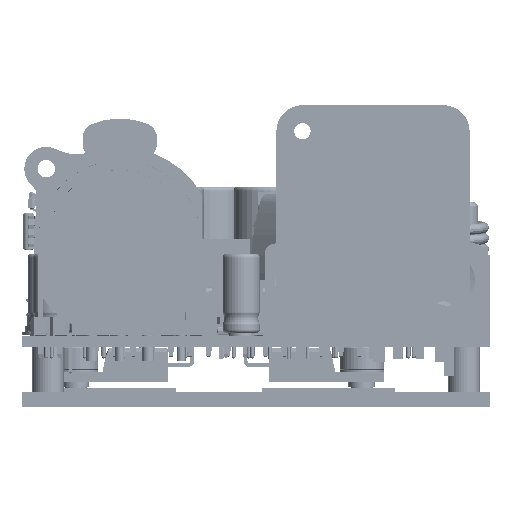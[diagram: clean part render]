
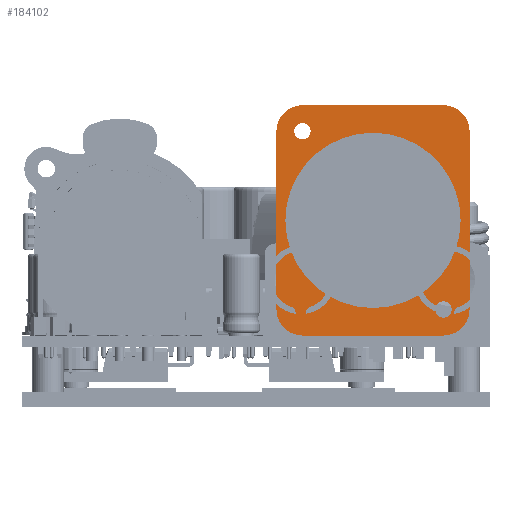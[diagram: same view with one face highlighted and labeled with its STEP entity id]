
A CAD part, left-side view. The second image highlights one B-rep face of the part: STEP entity #184102.
In plain terms, the highlighted planar face has unit normal (-1, 0, 0) as drawn and (0, 0, 1) by its records, which use the part's own axes.
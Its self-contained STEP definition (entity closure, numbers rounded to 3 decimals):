
#69158=CIRCLE('',#194928,1.1);
#69160=CIRCLE('',#194931,1.1);
#69172=CIRCLE('',#194948,11.798);
#69187=CIRCLE('',#194972,11.798);
#69188=CIRCLE('',#194974,1.1);
#69189=CIRCLE('',#194975,1.1);
#69190=CIRCLE('',#194976,3.5);
#69191=CIRCLE('',#194977,3.5);
#69192=CIRCLE('',#194978,3.5);
#69193=CIRCLE('',#194979,3.5);
#81185=VERTEX_POINT('',#295383);
#81186=VERTEX_POINT('',#295385);
#81189=VERTEX_POINT('',#295392);
#81190=VERTEX_POINT('',#295394);
#81213=VERTEX_POINT('',#295445);
#81214=VERTEX_POINT('',#295447);
#81364=VERTEX_POINT('',#296092);
#81365=VERTEX_POINT('',#296093);
#81366=VERTEX_POINT('',#296095);
#81367=VERTEX_POINT('',#296097);
#81368=VERTEX_POINT('',#296099);
#81369=VERTEX_POINT('',#296101);
#81370=VERTEX_POINT('',#296103);
#81371=VERTEX_POINT('',#296105);
#93871=VECTOR('',#223603,1.);
#93872=VECTOR('',#223606,1.);
#93873=VECTOR('',#223609,1.);
#93874=VECTOR('',#223612,1.);
#106587=LINE('',#296094,#93871);
#106588=LINE('',#296098,#93872);
#106589=LINE('',#296102,#93873);
#106590=LINE('',#296106,#93874);
#123951=EDGE_CURVE('',#81185,#81186,#69158,.T.);
#123955=EDGE_CURVE('',#81189,#81190,#69160,.T.);
#123979=EDGE_CURVE('',#81213,#81214,#69172,.T.);
#124141=EDGE_CURVE('',#81214,#81213,#69187,.T.);
#124142=EDGE_CURVE('',#81186,#81185,#69188,.T.);
#124143=EDGE_CURVE('',#81190,#81189,#69189,.T.);
#124144=EDGE_CURVE('',#81364,#81365,#69190,.T.);
#124145=EDGE_CURVE('',#81365,#81366,#106587,.T.);
#124146=EDGE_CURVE('',#81366,#81367,#69191,.T.);
#124147=EDGE_CURVE('',#81367,#81368,#106588,.T.);
#124148=EDGE_CURVE('',#81368,#81369,#69192,.T.);
#124149=EDGE_CURVE('',#81369,#81370,#106589,.T.);
#124150=EDGE_CURVE('',#81370,#81371,#69193,.T.);
#124151=EDGE_CURVE('',#81371,#81364,#106590,.T.);
#157599=ORIENTED_EDGE('',*,*,#124142,.F.);
#157600=ORIENTED_EDGE('',*,*,#123951,.F.);
#157601=ORIENTED_EDGE('',*,*,#124143,.F.);
#157602=ORIENTED_EDGE('',*,*,#123955,.F.);
#157603=ORIENTED_EDGE('',*,*,#124144,.T.);
#157604=ORIENTED_EDGE('',*,*,#124145,.T.);
#157605=ORIENTED_EDGE('',*,*,#124146,.T.);
#157606=ORIENTED_EDGE('',*,*,#124147,.T.);
#157607=ORIENTED_EDGE('',*,*,#124148,.T.);
#157608=ORIENTED_EDGE('',*,*,#124149,.T.);
#157609=ORIENTED_EDGE('',*,*,#124150,.T.);
#157610=ORIENTED_EDGE('',*,*,#124151,.T.);
#157611=ORIENTED_EDGE('',*,*,#124141,.F.);
#157612=ORIENTED_EDGE('',*,*,#123979,.F.);
#168619=EDGE_LOOP('',(#157599,#157600));
#168620=EDGE_LOOP('',(#157601,#157602));
#168621=EDGE_LOOP('',(#157603,#157604,#157605,#157606,#157607,#157608,#157609,
#157610));
#168622=EDGE_LOOP('',(#157611,#157612));
#176880=FACE_BOUND('',#168619,.T.);
#176881=FACE_BOUND('',#168620,.T.);
#176882=FACE_BOUND('',#168621,.T.);
#176883=FACE_BOUND('',#168622,.T.);
#184102=ADVANCED_FACE('',(#176880,#176881,#176882,#176883),#308022,.T.);
#194928=AXIS2_PLACEMENT_3D('',#295384,#223375,#223376);
#194931=AXIS2_PLACEMENT_3D('',#295393,#223383,#223384);
#194948=AXIS2_PLACEMENT_3D('',#295446,#223429,#223430);
#194972=AXIS2_PLACEMENT_3D('',#296087,#223594,#223595);
#194973=AXIS2_PLACEMENT_3D('',#296088,#223596,$);
#194974=AXIS2_PLACEMENT_3D('',#296089,#223597,#223598);
#194975=AXIS2_PLACEMENT_3D('',#296090,#223599,#223600);
#194976=AXIS2_PLACEMENT_3D('',#296091,#223601,#223602);
#194977=AXIS2_PLACEMENT_3D('',#296096,#223604,#223605);
#194978=AXIS2_PLACEMENT_3D('',#296100,#223607,#223608);
#194979=AXIS2_PLACEMENT_3D('',#296104,#223610,#223611);
#223375=DIRECTION('',(0.,0.,1.));
#223376=DIRECTION('',(1.1,0.,0.));
#223383=DIRECTION('',(0.,0.,1.));
#223384=DIRECTION('',(1.1,0.,0.));
#223429=DIRECTION('',(0.,0.,1.));
#223430=DIRECTION('',(11.798,0.,0.));
#223594=DIRECTION('',(0.,0.,1.));
#223595=DIRECTION('',(11.798,0.,0.));
#223596=DIRECTION('',(0.,0.,1.));
#223597=DIRECTION('',(0.,0.,1.));
#223598=DIRECTION('',(1.1,0.,0.));
#223599=DIRECTION('',(0.,0.,1.));
#223600=DIRECTION('',(1.1,0.,0.));
#223601=DIRECTION('',(0.,0.,1.));
#223602=DIRECTION('',(3.5,0.,0.));
#223603=DIRECTION('',(0.,-1.,0.));
#223604=DIRECTION('',(0.,0.,1.));
#223605=DIRECTION('',(3.5,0.,0.));
#223606=DIRECTION('',(1.,0.,0.));
#223607=DIRECTION('',(0.,0.,1.));
#223608=DIRECTION('',(-3.5,0.,0.));
#223609=DIRECTION('',(0.,1.,0.));
#223610=DIRECTION('',(0.,0.,1.));
#223611=DIRECTION('',(3.5,0.,0.));
#223612=DIRECTION('',(-1.,0.,0.));
#295383=CARTESIAN_POINT('',(8.4,-12.,0.));
#295384=CARTESIAN_POINT('',(9.5,-12.,0.));
#295385=CARTESIAN_POINT('',(10.6,-12.,0.));
#295392=CARTESIAN_POINT('',(-10.6,12.,0.));
#295393=CARTESIAN_POINT('',(-9.5,12.,0.));
#295394=CARTESIAN_POINT('',(-8.4,12.,0.));
#295445=CARTESIAN_POINT('',(11.798,0.,0.));
#295446=CARTESIAN_POINT('',(0.,0.,0.));
#295447=CARTESIAN_POINT('',(-11.798,0.,0.));
#296087=CARTESIAN_POINT('',(0.,0.,0.));
#296088=CARTESIAN_POINT('',(-9.5,12.,0.));
#296089=CARTESIAN_POINT('',(9.5,-12.,0.));
#296090=CARTESIAN_POINT('',(-9.5,12.,0.));
#296091=CARTESIAN_POINT('',(-9.5,12.,0.));
#296092=CARTESIAN_POINT('',(-9.5,15.5,0.));
#296093=CARTESIAN_POINT('',(-13.,12.,0.));
#296094=CARTESIAN_POINT('',(-13.,12.,0.));
#296095=CARTESIAN_POINT('',(-13.,-12.,0.));
#296096=CARTESIAN_POINT('',(-9.5,-12.,0.));
#296097=CARTESIAN_POINT('',(-9.5,-15.5,0.));
#296098=CARTESIAN_POINT('',(-9.5,-15.5,0.));
#296099=CARTESIAN_POINT('',(9.5,-15.5,0.));
#296100=CARTESIAN_POINT('',(9.5,-12.,0.));
#296101=CARTESIAN_POINT('',(13.,-12.,0.));
#296102=CARTESIAN_POINT('',(13.,-12.,0.));
#296103=CARTESIAN_POINT('',(13.,12.,0.));
#296104=CARTESIAN_POINT('',(9.5,12.,0.));
#296105=CARTESIAN_POINT('',(9.5,15.5,0.));
#296106=CARTESIAN_POINT('',(9.5,15.5,0.));
#308022=PLANE('',#194973);
